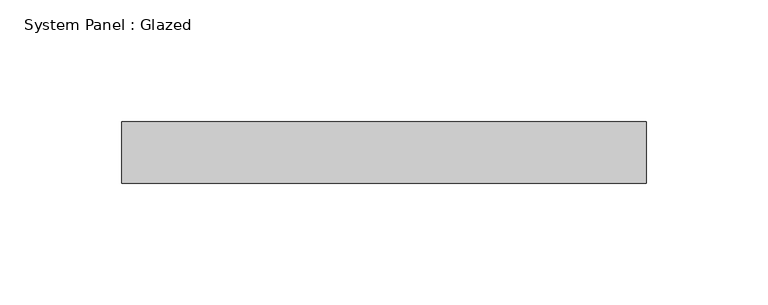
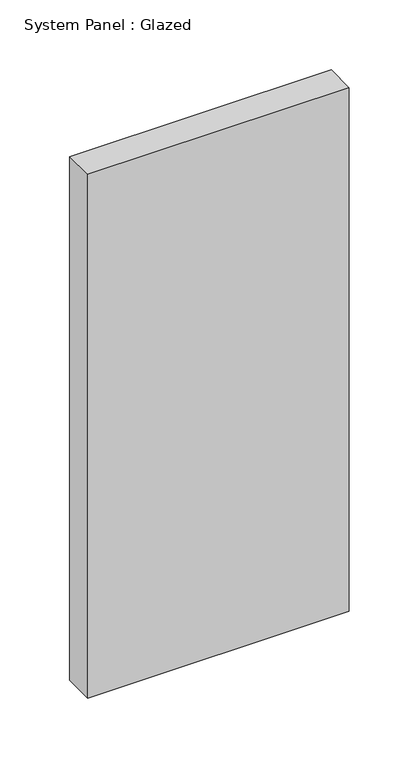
"""IFC4 building model written with IfcOpenShell, lengths in millimetres: plate geometry, System Panel : Glazed."""

from ifc_helpers import new_model, si_unit, origin, origin_with_axes, place, context, project, spatial, polyline, outline, extrude, source, transform, mapped, element, save


def system_panel_glazed_0c78a478(model_context):
    return source(origin(), model_context, "Body", "SweptSolid", [
        extrude(outline(polyline([(107.9884165, -44.45), (-107.9884165, -44.45), (-107.9884165, -19.05), (107.9884165, -19.05), (107.9884165, -44.45)])), origin_with_axes(), (0.0, 0.0, 1.0), 457.2),
    ])


if __name__ == "__main__":
    model = new_model("IFC4")
    model_context = context("Model", 3, world=origin())
    ifc_project = project(units=[si_unit("LENGTHUNIT", "METRE", prefix="MILLI")], contexts=[model_context])
    site = spatial("IfcSite", under=ifc_project)
    building = spatial("IfcBuilding", under=site)
    placement = place(None, origin())
    system_panel_glazed_shape = system_panel_glazed_0c78a478(model_context)
    element("IfcPlate", 1, ObjectType="System Panel : Glazed", at=placement, inside=building, context=model_context, shape_type="MappedRepresentation", body=[
        mapped(system_panel_glazed_shape, transform((0.0, 0.0, 0.0), x_axis=(1.0, 0.0, 0.0), y_axis=(0.0, 1.0, 0.0), z_axis=(0.0, 0.0, 1.0))),
    ])
    save(model, "model.ifc")
